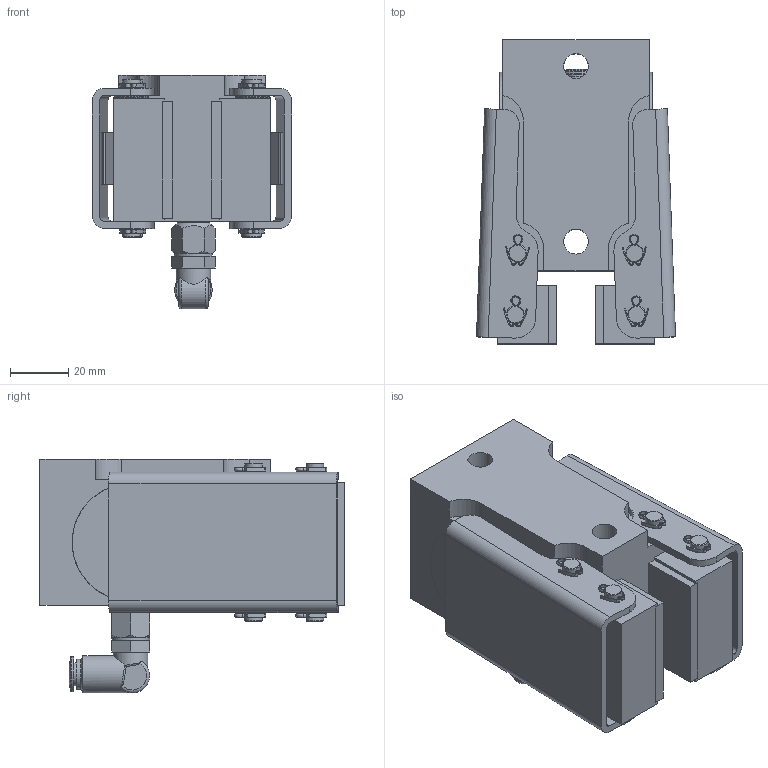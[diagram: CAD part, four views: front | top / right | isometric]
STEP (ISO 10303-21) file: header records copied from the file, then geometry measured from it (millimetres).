
FILE_DESCRIPTION(/* description */ ('','CAx-IF Rec.Pracs.---Representation and Presentation of Product Manufacturing Information (PMI)---4.0---2014-10-13'),/* implementation_level */ '2;1');
FILE_NAME(/* name */ 'X:\INVENTOR\DISEGNI\19_Pinze\STEP x Sito\PNEUM-NEGATIVE\19_36_C02_03 PPC-N C02_12,7.stp',/* time_stamp */ '2018-02-21T14:50:44+01:00',/* author */ ('stefano'),/* organization */ (''),/* preprocessor_version */ 'ST-DEVELOPER v17',/* originating_system */ 'Autodesk Inventor 2018',/* authorisation */ '');
FILE_SCHEMA (('AP242_MANAGED_MODEL_BASED_3D_ENGINEERING_MIM_LF { 1 0 10303 442 1 1 4 }'));
Length unit declared in the file: millimetre
Products named in the file (1): 19_36_C02_03 PPC-N C02_12,7_Substitute_2
Bounding box: 68.05 x 103.99 x 80 mm (x, y, z)
Volume: 246919.2 mm3; surface area: 71278.7 mm2
Topology: 7 solids, 7 shells, 563 faces, 1653 edges, 1118 vertices
Faces by surface type: plane 235, cylinder 185, bspline 101, cone 36, torus 4, sphere 2
Full cylindrical faces by diameter (mm): 1.5 x11, 2.5 x2, 3.242 x2, 4.5 x2, 6 x7, 6.1 x10, 7.25 x16, 8 x1, 8.5 x2, 8.8 x1, 9.5 x1, 10 x4, 10.2 x1, 11.8 x1, 12 x1, 12.8 x1, 13 x1, 14 x1, 15 x1, 33.9 x1, 34 x3, 35.7 x1, 40 x2
Entity records: 25052 total; most frequent: CARTESIAN_POINT 9733, ORIENTED_EDGE 3304, DIRECTION 3068, EDGE_CURVE 1652, AXIS2_PLACEMENT_3D 1188, VERTEX_POINT 1119, CIRCLE 714, LINE 692
